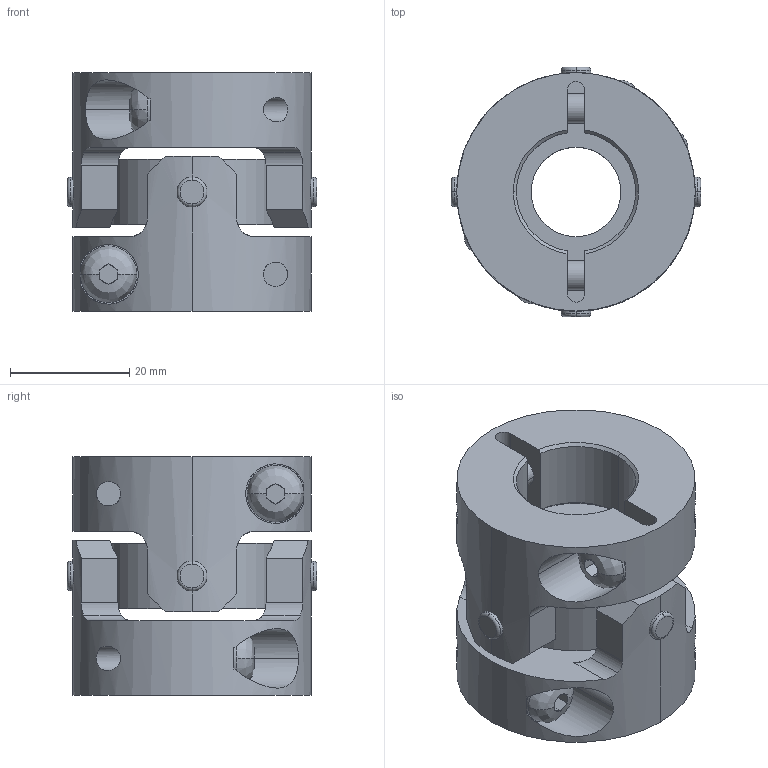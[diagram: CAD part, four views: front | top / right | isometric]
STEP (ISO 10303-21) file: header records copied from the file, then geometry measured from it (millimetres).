
FILE_DESCRIPTION((''),'2;1');
FILE_NAME('UA-40C-19×20.stp','2013-05-22T08:52:37',(''),(''),'AutoCAD STEP 2000i','AutoCAD 2000i',', , ');
FILE_SCHEMA(('CONFIG_CONTROL_DESIGN'));
Length unit declared in the file: millimetre
Products named in the file (8): UA-40C-18×18; 忣兜1; UA-4002-D18-1; BTN-M5; UA-4002-D18; UA-4002-D08-1; UA-4002-D08; UA40-SEN
Assembly tree (10 placements, depth 3):
  UA-40C-18×18
    忣兜1
    UA-4002-D18-1
      BTN-M5
    UA-4002-D18
      BTN-M5
    UA-4002-D08-1
      BTN-M5
    UA-4002-D08
      BTN-M5
    UA40-SEN
Bounding box: 41.81 x 41.81 x 40 mm (x, y, z)
Volume: 30703.9 mm3; surface area: 14636.5 mm2
Topology: 1 solids, 1 shells, 254 faces, 662 edges, 416 vertices
Faces by surface type: plane 126, cylinder 96, cone 16, bspline 8, torus 8
Entity records: 9783 total; most frequent: CARTESIAN_POINT 3355, DIRECTION 1328, ORIENTED_EDGE 1324, EDGE_CURVE 662, AXIS2_PLACEMENT_3D 513, VERTEX_POINT 416, VECTOR 302, LINE 302
